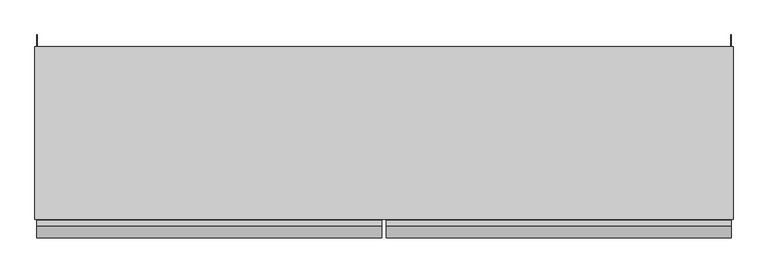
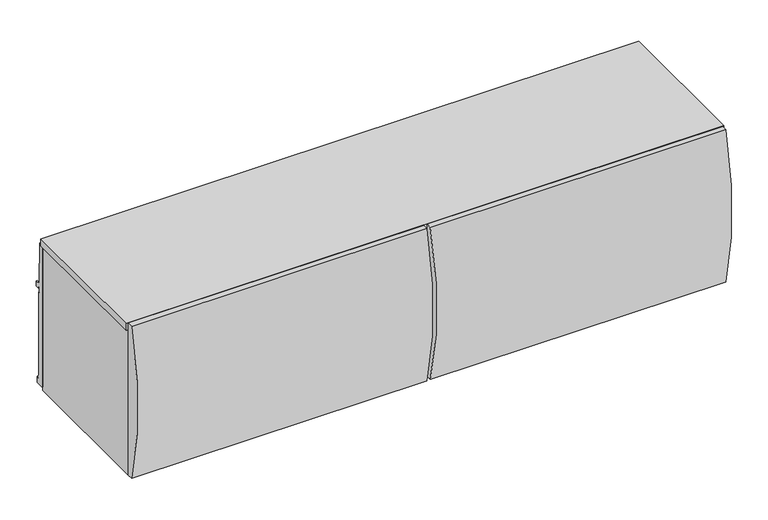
"""IFC4 building model written with IfcOpenShell, lengths in millimetres: furniture geometry, Steelcase - Universal Storage - Over the Case Bin - Radius Front : For Montage - 60W."""

from ifc_helpers import new_model, si_unit, point, frame, frame_2d, origin, place, context, project, spatial, polyline, circle_curve, trimmed, segment, composite_curve, outline, extrude, source, transform, mapped, element, save


def furniture_a78ef09e(model_context):
    return source(origin(), model_context, "Body", "SweptSolid", [
        extrude(outline(composite_curve([segment(polyline([(-393.0769518, 1677.2612846), (-379.476, 1677.2612846), (-379.476, 1266.8226746), (-393.0769518, 1266.8226746)]), True, "CONTINUOUS"), segment(trimmed(circle_curve(frame_2d((352.6331971, 1472.0419796)), 773.4329895), [point((-393.0769518, 1266.8226746))], [point((-393.0769518, 1677.2612846))], False, "CARTESIAN"), True, "CONTINUOUS")], self_intersect=False)), frame((766.572, 0.0, 0.0), z_axis=(1.0, 0.0, 0.0), x_axis=(0.0, 1.0, 0.0)), (0.0, 0.0, 1.0), 752.9983),
        extrude(outline(composite_curve([segment(polyline([(-393.0769518, 1677.2612846), (-379.476, 1677.2612846), (-379.476, 1266.8226746), (-393.0769518, 1266.8226746)]), True, "CONTINUOUS"), segment(trimmed(circle_curve(frame_2d((352.6331971, 1472.0419796)), 773.4329895), [point((-393.0769518, 1266.8226746))], [point((-393.0769518, 1677.2612846))], False, "CARTESIAN"), True, "CONTINUOUS")], self_intersect=False)), frame((4.4448587, 0.0, 0.0), z_axis=(1.0, 0.0, 0.0), x_axis=(0.0, 1.0, 0.0)), (0.0, 0.0, 1.0), 752.9831413),
        extrude(outline(polyline([(0.0, 1657.096), (10.1677703, 1657.096), (13.3857995, 1545.8185744), (26.0095997, 1545.8185744), (26.0095997, 1532.1025512), (17.5768, 1532.1025512), (17.5768, 1537.1064608), (13.3349998, 1537.1064608), (13.3349998, 1522.6538546), (14.2747998, 1522.6538546), (14.2747998, 1296.0858527), (17.2466001, 1296.0858527), (17.2466001, 1289.7358043), (22.5806007, 1289.7358043), (22.5806007, 1274.2164027), (0.0, 1274.2164027), (0.0, 1657.096)])), frame((1518.4882, 0.0, 0.0), z_axis=(1.0, 0.0, 0.0), x_axis=(0.0, 1.0, 0.0)), (0.0, 0.0, 1.0), 1.905),
        extrude(outline(polyline([(1524.0, -377.213238), (0.0, -377.213238), (0.0, 0.0), (1524.0, 0.0), (1524.0, -377.213238)])), frame((0.0, 0.0, 1657.35), z_axis=(0.0, 0.0, 1.0), x_axis=(1.0, 0.0, 0.0)), (0.0, 0.0, 1.0), 19.05),
        extrude(outline(polyline([(15.875, -377.213238), (5.5118, -377.213238), (5.5118, 0.0), (15.875, 0.0), (15.875, -377.213238)])), frame((0.0, 0.0, 1265.428), z_axis=(0.0, 0.0, 1.0), x_axis=(1.0, 0.0, 0.0)), (0.0, 0.0, 1.0), 391.6679457),
        extrude(outline(polyline([(1522.8568665, -377.213238), (1508.125, -377.213238), (1508.125, 0.0), (1522.8568665, 0.0), (1522.8568665, -377.213238)])), frame((0.0, 0.0, 1265.428), z_axis=(0.0, 0.0, 1.0), x_axis=(1.0, 0.0, 0.0)), (0.0, 0.0, 1.0), 391.6679457),
        extrude(outline(polyline([(0.0, 1657.096), (10.1677703, 1657.096), (13.3857995, 1545.8185744), (26.0095997, 1545.8185744), (26.0095997, 1532.1025512), (17.5768, 1532.1025512), (17.5768, 1537.1064608), (13.3349998, 1537.1064608), (13.3349998, 1522.6538546), (14.2747998, 1522.6538546), (14.2747998, 1296.0858527), (17.2466001, 1296.0858527), (17.2466001, 1289.7358043), (22.5806007, 1289.7358043), (22.5806007, 1274.2164027), (0.0, 1274.2164027), (0.0, 1657.096)])), frame((3.6068, 0.0, 0.0), z_axis=(1.0, 0.0, 0.0), x_axis=(0.0, 1.0, 0.0)), (0.0, 0.0, 1.0), 1.905),
        extrude(outline(polyline([(-35.4584098, 1372.819257), (-27.0763996, 1372.819257), (-27.0763996, 1360.1191601), (-33.4264117, 1360.1191601), (-33.4264117, 1323.1622589), (-27.0763996, 1323.1622589), (-27.0763996, 1265.428), (-35.4584098, 1265.428), (-35.4584098, 1293.054213), (-46.1263996, 1293.054213), (-46.1263996, 1268.1875622), (-59.9694137, 1268.1875622), (-59.9694137, 1294.8575912), (-332.8542818, 1294.8575912), (-332.8542818, 1268.1875622), (-377.3042823, 1268.1875622), (-377.3042823, 1310.7072052), (-35.4584098, 1310.7072052), (-35.4584098, 1372.819257)])), frame((15.875, 0.0, 0.0), z_axis=(1.0, 0.0, 0.0), x_axis=(0.0, 1.0, 0.0)), (0.0, 0.0, 1.0), 1492.25),
    ])


if __name__ == "__main__":
    model = new_model("IFC4")
    model_context = context("Model", 3, world=origin())
    ifc_project = project(units=[si_unit("LENGTHUNIT", "METRE", prefix="MILLI")], contexts=[model_context])
    site = spatial("IfcSite", under=ifc_project)
    building = spatial("IfcBuilding", under=site)
    placement = place(None, origin())
    furniture_shape = furniture_a78ef09e(model_context)
    element("IfcFurniture", 1, ObjectType="Steelcase - Universal Storage - Over the Case Bin - Radius Front : For Montage - 60W", at=placement, inside=building, context=model_context, shape_type="MappedRepresentation", body=[
        mapped(furniture_shape, transform((0.0, 0.0, 0.0), x_axis=(1.0, 0.0, 0.0), y_axis=(0.0, 1.0, 0.0), z_axis=(0.0, 0.0, 1.0))),
    ])
    save(model, "model.ifc")
